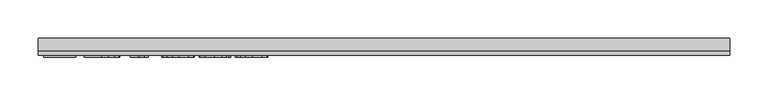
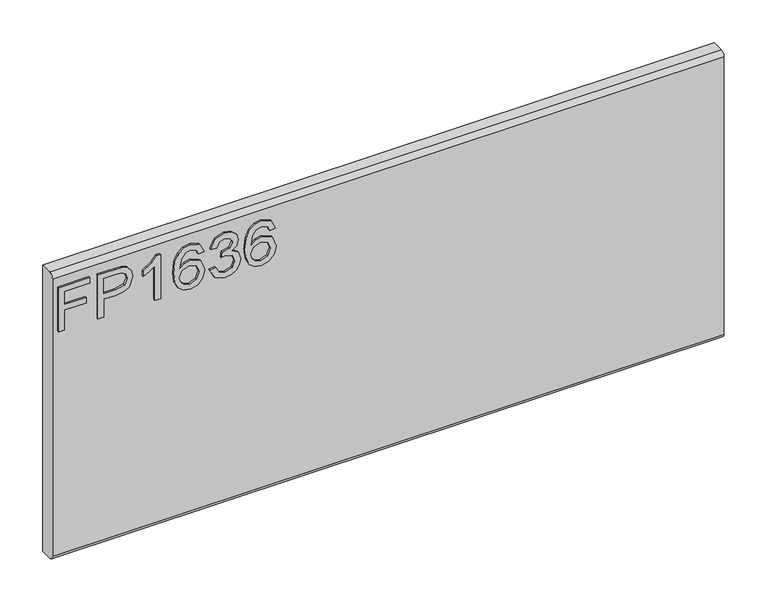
"""IFC4 building model written with IfcOpenShell, lengths in millimetres: furniture geometry."""

from ifc_helpers import new_model, si_unit, frame, origin, place, context, project, spatial, polyline, circle_curve, outline, extrude, source, transform, mapped, element, save
from ifc_brep_helpers import plane_surface, cylinder_surface, advanced_brep


def furniture_bb7a0342(model_context):
    return source(origin(), model_context, "Body", "SolidModel", [
        extrude(outline(polyline([(1289.05, -444.0115385), (1289.05, -436.1961538), (1317.3807692, -436.1961538), (1317.3807692, -406.8884615), (1325.1961538, -406.8884615), (1325.1961538, -436.1961538), (1343.7576923, -436.1961538), (1343.7576923, -402.0038462), (1351.5730769, -402.0038462), (1351.5730769, -444.0115385), (1289.05, -444.0115385)])), frame((0.0, -15.0812439, 0.0), z_axis=(0.0, 1.0, 0.0), x_axis=(0.0, 0.0, 1.0)), (0.0, 0.0, 1.0), 2.38125),
        extrude(outline(polyline([(1289.05, -391.2576923), (1289.05, -383.4423077), (1314.45, -383.4423077), (1314.45, -367.5520433), (1315.8314303, -356.4490835), (1319.9757212, -349.395012), (1333.4847356, -344.3653846), (1342.0099159, -346.2276442), (1348.0546274, -351.1504207), (1350.9777644, -358.7444712), (1351.5730769, -368.0862981), (1351.5730769, -391.2576923), (1289.05, -391.2576923)]), holes=[polyline([(1322.2653846, -383.4423077), (1343.7576923, -383.4423077), (1343.7576923, -367.2772837), (1343.2234375, -359.461899), (1339.6820913, -354.1880409), (1333.209976, -352.1807692), (1325.1350962, -355.5847356), (1322.2653846, -367.0941106), (1322.2653846, -383.4423077)])]), frame((0.0, -15.0812439, 0.0), z_axis=(0.0, 1.0, 0.0), x_axis=(0.0, 0.0, 1.0)), (0.0, 0.0, 1.0), 2.38125),
        extrude(outline(polyline([(1289.05, -307.2423077), (1351.5730769, -307.2423077), (1351.5730769, -312.2795673), (1343.2539663, -319.232512), (1335.9423077, -330.6884615), (1328.5543269, -330.6884615), (1332.5001803, -322.4609375), (1337.7740385, -315.0576923), (1289.05, -315.0576923), (1289.05, -307.2423077)])), frame((0.0, -15.0812439, 0.0), z_axis=(0.0, 1.0, 0.0), x_axis=(0.0, 0.0, 1.0)), (0.0, 0.0, 1.0), 2.38125),
        extrude(outline(polyline([(1334.9653846, -248.6269231), (1347.1616587, -254.396875), (1351.5730769, -266.7457933), (1349.7909555, -275.8166767), (1344.4445913, -282.8192308), (1333.8014724, -287.9480769), (1318.2355769, -289.6576923), (1304.3907452, -288.1178936), (1295.0947115, -283.4984976), (1289.8284856, -276.4367939), (1288.0730769, -267.5700721), (1290.7214543, -257.3276442), (1298.3536659, -250.2296875), (1309.1379808, -247.65), (1323.5323317, -253.1299279), (1329.1038462, -266.409976), (1327.0660457, -274.9504207), (1320.8305288, -281.8423077), (1334.7593149, -279.6213341), (1341.8649038, -274.2864183), (1343.7576923, -267.2342548), (1340.5063702, -259.4036058), (1333.9884615, -256.4423077), (1334.9653846, -248.6269231)]), holes=[polyline([(1309.2600962, -281.8423077), (1317.9684495, -277.957512), (1321.2884615, -268.5012019), (1317.9684495, -258.9227764), (1308.8784856, -255.4653846), (1299.3840144, -258.9685697), (1295.8884615, -268.180649), (1297.5751803, -275.2251803), (1302.4903245, -280.0334736), (1309.2600962, -281.8423077)])]), frame((0.0, -15.0812439, 0.0), z_axis=(0.0, 1.0, 0.0), x_axis=(0.0, 0.0, 1.0)), (0.0, 0.0, 1.0), 2.38125),
        extrude(outline(polyline([(1305.6576923, -240.8115385), (1292.9729567, -234.5989183), (1288.0730769, -220.8914663), (1289.5079327, -212.5380108), (1293.8125, -205.7644231), (1300.1777644, -201.2766827), (1307.7947115, -199.7807692), (1317.9608173, -202.7725962), (1323.3033654, -211.2901442), (1328.4780048, -204.8790865), (1335.6828125, -202.7115385), (1343.566887, -204.9935697), (1349.4284255, -211.5878005), (1351.5730769, -221.0135817), (1347.2227163, -233.4388221), (1334.9653846, -239.8346154), (1333.9884615, -232.0192308), (1341.3153846, -228.1878606), (1343.7576923, -220.7388221), (1341.3382813, -213.3813702), (1335.2248798, -210.5269231), (1328.3253606, -214.4651442), (1326.1730769, -224.5854567), (1318.3576923, -225.4555288), (1319.2125, -219.975601), (1316.0146034, -211.0917067), (1307.9320913, -207.5961538), (1299.3534856, -211.1222356), (1295.8884615, -220.6167067), (1298.4070913, -228.6839543), (1306.6346154, -232.9961538), (1305.6576923, -240.8115385)])), frame((0.0, -15.0812439, 0.0), z_axis=(0.0, 1.0, 0.0), x_axis=(0.0, 0.0, 1.0)), (0.0, 0.0, 1.0), 2.38125),
        extrude(outline(polyline([(1334.9653846, -152.8884615), (1347.1616587, -158.6584135), (1351.5730769, -171.0073317), (1349.7909555, -180.0782151), (1344.4445913, -187.0807692), (1333.8014724, -192.2096154), (1318.2355769, -193.9192308), (1304.3907452, -192.3794321), (1295.0947115, -187.7600361), (1289.8284856, -180.6983323), (1288.0730769, -171.8316106), (1290.7214543, -161.5891827), (1298.3536659, -154.491226), (1309.1379808, -151.9115385), (1323.5323317, -157.3914663), (1329.1038462, -170.6715144), (1327.0660457, -179.2119591), (1320.8305288, -186.1038462), (1334.7593149, -183.8828726), (1341.8649038, -178.5479567), (1343.7576923, -171.4957933), (1340.5063702, -163.6651442), (1333.9884615, -160.7038462), (1334.9653846, -152.8884615)]), holes=[polyline([(1309.2600962, -186.1038462), (1317.9684495, -182.2190505), (1321.2884615, -172.7627404), (1317.9684495, -163.1843149), (1308.8784856, -159.7269231), (1299.3840144, -163.2301082), (1295.8884615, -172.4421875), (1297.5751803, -179.4867187), (1302.4903245, -184.295012), (1309.2600962, -186.1038462)])]), frame((0.0, -15.0812439, 0.0), z_axis=(0.0, 1.0, 0.0), x_axis=(0.0, 0.0, 1.0)), (0.0, 0.0, 1.0), 2.38125),
        advanced_brep(
        [(450.85, 9.5250061, 1371.6), (450.85, -6.7309939, 1371.6), (450.85, -12.6999939, 1365.631), (450.85, -12.6999939, 971.169), (450.85, -6.7309939, 965.2), (450.85, 9.5250061, 965.2), (-450.85, 9.5250061, 1371.6), (-450.85, 9.5250061, 965.2), (-450.85, -6.7309939, 965.2), (-450.85, -12.6999939, 971.169), (-450.85, -12.6999939, 1365.6310121), (-450.85, -6.7309939, 1371.6)],
        [
            (0, 1),
            (1, 2, circle_curve(frame((450.85, -6.7309939, 1365.631), z_axis=(1.0, 0.0, 0.0), x_axis=(0.0, 1.0, 0.0)), 5.969)),
            (2, 3),
            (3, 4, circle_curve(frame((450.85, -6.7309939, 971.169), z_axis=(1.0, 0.0, 0.0), x_axis=(0.0, 1.0, 0.0)), 5.969)),
            (4, 5),
            (5, 0),
            (6, 7),
            (7, 8),
            (8, 9, circle_curve(frame((-450.85, -6.7309939, 971.169), z_axis=(-1.0, 0.0, 0.0), x_axis=(0.0, 1.0, 0.0)), 5.969)),
            (9, 10),
            (10, 11, circle_curve(frame((-450.85, -6.7309939, 1365.631), z_axis=(-1.0, 0.0, 0.0), x_axis=(0.0, 1.0, 0.0)), 5.969)),
            (11, 6),
            (0, 6),
            (11, 1),
            (10, 2),
            (9, 3),
            (8, 4),
            (7, 5),
        ],
        [
            plane_surface(frame((450.85, -6.7309939, 1371.6), z_axis=(1.0, 0.0, 0.0), x_axis=(0.0, -1.0, 0.0))),
            plane_surface(frame((-450.85, -6.7309939, 1371.6), z_axis=(-1.0, 0.0, 0.0), x_axis=(0.0, 1.0, 0.0))),
            plane_surface(frame((450.85, 9.5250061, 1371.6), z_axis=(0.0, 0.0, 1.0), x_axis=(-1.0, 0.0, 0.0))),
            cylinder_surface(frame((-450.85, -6.7309939, 1365.631), z_axis=(1.0, 0.0, 0.0), x_axis=(0.0, 1.0, 0.0)), 5.969),
            plane_surface(frame((450.85, -12.6999939, 1365.6310121), z_axis=(0.0, -1.0, 0.0), x_axis=(-1.0, 0.0, 0.0))),
            cylinder_surface(frame((-450.85, -6.7309939, 971.169), z_axis=(1.0, 0.0, 0.0), x_axis=(0.0, 1.0, 0.0)), 5.969),
            plane_surface(frame((450.85, -6.7309939, 965.2), z_axis=(0.0, 0.0, -1.0), x_axis=(-1.0, 0.0, 0.0))),
            plane_surface(frame((450.85, 9.5250061, 965.2), z_axis=(0.0, 1.0, 0.0), x_axis=(-1.0, 0.0, 0.0))),
        ],
        [
            (0, [[1, 2, 3, 4, 5, 6]]),
            (1, [[7, 8, 9, 10, 11, 12]]),
            (2, [[-1, 13, -12, 14]]),
            (3, [[-2, -14, -11, 15]]),
            (4, [[-3, -15, -10, 16]]),
            (5, [[-4, -16, -9, 17]]),
            (6, [[-5, -17, -8, 18]]),
            (7, [[-6, -18, -7, -13]]),
        ],
    ),
    ])


if __name__ == "__main__":
    model = new_model("IFC4")
    model_context = context("Model", 3, world=origin())
    ifc_project = project(units=[si_unit("LENGTHUNIT", "METRE", prefix="MILLI")], contexts=[model_context])
    site = spatial("IfcSite", under=ifc_project)
    building = spatial("IfcBuilding", under=site)
    placement = place(None, origin())
    furniture_shape = furniture_bb7a0342(model_context)
    element("IfcFurniture", 1, ObjectType="HermanMiller_Ethospace_E1420_FaceTile : Ptd 16\"H x 36\"W", at=placement, inside=building, context=model_context, shape_type="MappedRepresentation", body=[
        mapped(furniture_shape, transform((0.0, 0.0, 0.0), x_axis=(1.0, 0.0, 0.0), y_axis=(0.0, 1.0, 0.0), z_axis=(0.0, 0.0, 1.0))),
    ])
    save(model, "model.ifc")
